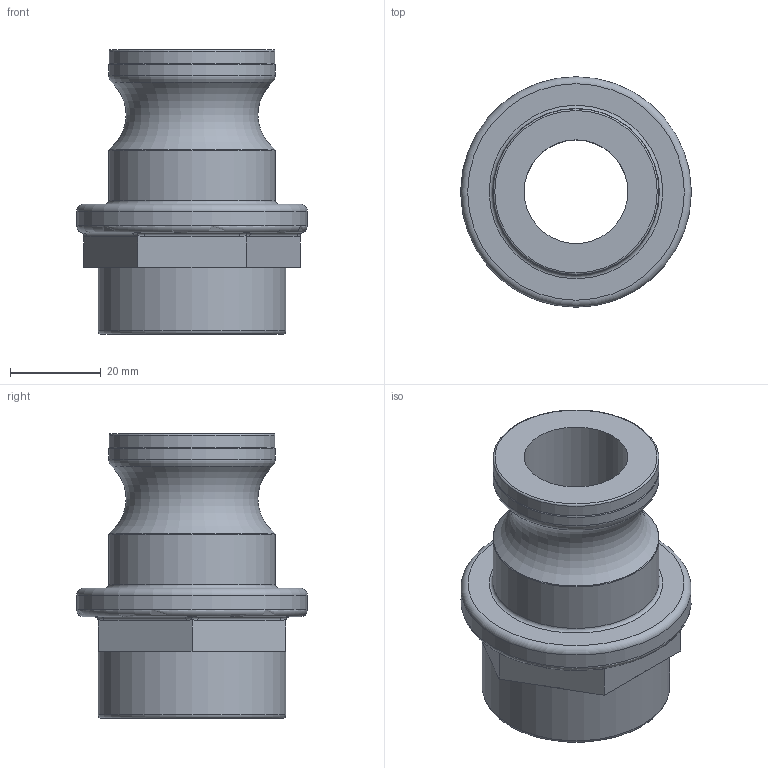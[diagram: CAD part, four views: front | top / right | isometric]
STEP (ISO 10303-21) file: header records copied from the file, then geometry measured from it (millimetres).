
FILE_DESCRIPTION(/* description */ ('Alibre Inc.'),/* implementation_level */ '2;1');
FILE_NAME(/* name */ 'export0',/* time_stamp */ '2016-02-21T11:14:16-05:00',/* author */ (''),/* organization */ (''),/* preprocessor_version */ 'ST-DEVELOPER v14',/* originating_system */ 'Alibre',/* authorisation */ '');
FILE_SCHEMA (('CONFIG_CONTROL_DESIGN'));
Length unit declared in the file: centimetre
Products named in the file (1): ID_1
Bounding box: 50.8 x 50.8 x 62.74 mm (x, y, z)
Volume: 42477.2 mm3; surface area: 17060.9 mm2
Topology: 1 solids, 1 shells, 83 faces, 203 edges, 124 vertices
Faces by surface type: cone 27, plane 22, bspline 15, cylinder 12, torus 7
Full cylindrical faces by diameter (mm): 22.86 x1, 36.576 x1, 36.728 x2, 41.402 x1, 50.8 x1
Entity records: 24874 total; most frequent: CARTESIAN_POINT 23178, ORIENTED_EDGE 368, DIRECTION 240, EDGE_CURVE 184, VERTEX_POINT 120, AXIS2_PLACEMENT_3D 106, EDGE_LOOP 102, FACE_BOUND 102
